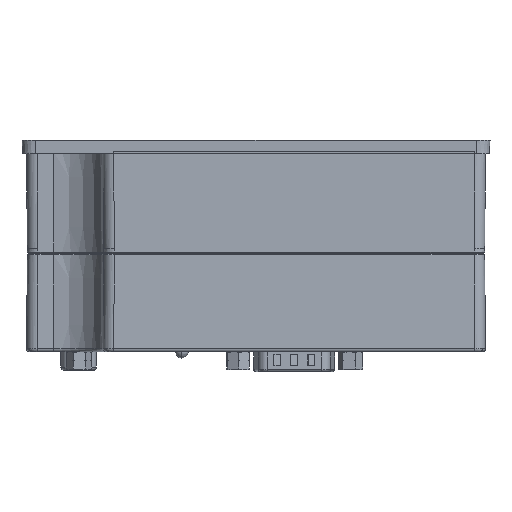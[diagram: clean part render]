
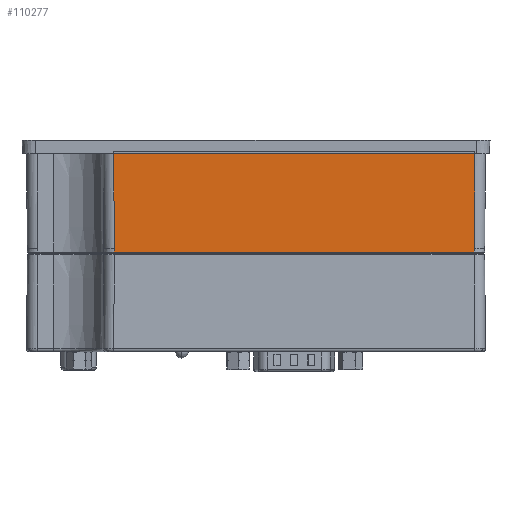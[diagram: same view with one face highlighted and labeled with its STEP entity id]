
A CAD part, front view. The second image highlights one B-rep face of the part: STEP entity #110277.
In plain terms, the highlighted planar face has unit normal (0, -1, -0.009).
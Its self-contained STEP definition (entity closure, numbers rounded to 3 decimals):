
#1550 = EDGE_LOOP ( 'NONE', ( #180585, #75055, #177465, #4167, #67904, #194254 ) ) ;
#4167 = ORIENTED_EDGE ( 'NONE', *, *, #169702, .T. ) ;
#4941 = VERTEX_POINT ( 'NONE', #119204 ) ;
#10209 = CARTESIAN_POINT ( 'NONE',  ( -31.456, -52.806, 20.721 ) ) ;
#14870 = LINE ( 'NONE', #144637, #116236 ) ;
#17651 = LINE ( 'NONE', #84764, #97650 ) ;
#21219 = DIRECTION ( 'NONE',  ( 0.009, -0.009, 1. ) ) ;
#22273 = CARTESIAN_POINT ( 'NONE',  ( 48.65, -53., 43.021 ) ) ;
#34157 = AXIS2_PLACEMENT_3D ( 'NONE', #166008, #51162, #36199 ) ;
#36199 = DIRECTION ( 'NONE',  ( 0., 0.009, -1. ) ) ;
#36849 = LINE ( 'NONE', #83755, #174620 ) ;
#40977 = CARTESIAN_POINT ( 'NONE',  ( 48.65, -53., 43. ) ) ;
#51162 = DIRECTION ( 'NONE',  ( 0., -1., -0.009 ) ) ;
#63942 = DIRECTION ( 'NONE',  ( 1., 0., 0. ) ) ;
#67128 = LINE ( 'NONE', #22273, #106413 ) ;
#67904 = ORIENTED_EDGE ( 'NONE', *, *, #143982, .F. ) ;
#75055 = ORIENTED_EDGE ( 'NONE', *, *, #201219, .T. ) ;
#76734 = VERTEX_POINT ( 'NONE', #210556 ) ;
#82139 = CARTESIAN_POINT ( 'NONE',  ( 48.462, -52.805, 20.702 ) ) ;
#83755 = CARTESIAN_POINT ( 'NONE',  ( 48.462, -52.812, 21.5 ) ) ;
#84764 = CARTESIAN_POINT ( 'NONE',  ( -31.462, -52.812, 21.5 ) ) ;
#86356 = DIRECTION ( 'NONE',  ( 1., 0., 0. ) ) ;
#86805 = VERTEX_POINT ( 'NONE', #40977 ) ;
#95145 = VERTEX_POINT ( 'NONE', #158225 ) ;
#97650 = VECTOR ( 'NONE', #132523, 1000. ) ;
#99129 = LINE ( 'NONE', #82139, #137712 ) ;
#105312 = EDGE_CURVE ( 'NONE', #132904, #4941, #36849, .T. ) ;
#106413 = VECTOR ( 'NONE', #21219, 1000. ) ;
#108408 = EDGE_CURVE ( 'NONE', #95145, #206729, #17651, .T. ) ;
#110277 = ADVANCED_FACE ( 'NONE', ( #143705 ), #178861, .T. ) ;
#116236 = VECTOR ( 'NONE', #63942, 1000. ) ;
#119204 = CARTESIAN_POINT ( 'NONE',  ( 48.462, -52.812, 21.5 ) ) ;
#122793 = EDGE_CURVE ( 'NONE', #76734, #206729, #155953, .T. ) ;
#127766 = CARTESIAN_POINT ( 'NONE',  ( 48.462, -52.805, 20.702 ) ) ;
#130496 = DIRECTION ( 'NONE',  ( 0., -0.009, 1. ) ) ;
#132523 = DIRECTION ( 'NONE',  ( 0., -0.009, 1. ) ) ;
#132904 = VERTEX_POINT ( 'NONE', #127766 ) ;
#137712 = VECTOR ( 'NONE', #86356, 1000. ) ;
#137816 = DIRECTION ( 'NONE',  ( 0.009, 0.009, -1. ) ) ;
#143705 = FACE_OUTER_BOUND ( 'NONE', #1550, .T. ) ;
#143982 = EDGE_CURVE ( 'NONE', #76734, #86805, #14870, .T. ) ;
#144637 = CARTESIAN_POINT ( 'NONE',  ( 51., -53., 43. ) ) ;
#155953 = LINE ( 'NONE', #10209, #200160 ) ;
#158225 = CARTESIAN_POINT ( 'NONE',  ( -31.462, -52.805, 20.702 ) ) ;
#166008 = CARTESIAN_POINT ( 'NONE',  ( 51., -53., 43. ) ) ;
#169702 = EDGE_CURVE ( 'NONE', #4941, #86805, #67128, .T. ) ;
#174620 = VECTOR ( 'NONE', #130496, 1000. ) ;
#177465 = ORIENTED_EDGE ( 'NONE', *, *, #105312, .T. ) ;
#178861 = PLANE ( 'NONE',  #34157 ) ;
#180585 = ORIENTED_EDGE ( 'NONE', *, *, #108408, .F. ) ;
#183040 = CARTESIAN_POINT ( 'NONE',  ( -31.462, -52.812, 21.5 ) ) ;
#194254 = ORIENTED_EDGE ( 'NONE', *, *, #122793, .T. ) ;
#200160 = VECTOR ( 'NONE', #137816, 1000. ) ;
#201219 = EDGE_CURVE ( 'NONE', #95145, #132904, #99129, .T. ) ;
#206729 = VERTEX_POINT ( 'NONE', #183040 ) ;
#210556 = CARTESIAN_POINT ( 'NONE',  ( -31.65, -53., 43. ) ) ;
